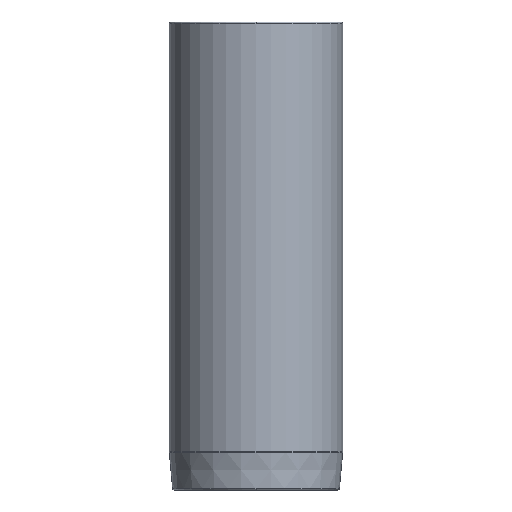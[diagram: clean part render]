
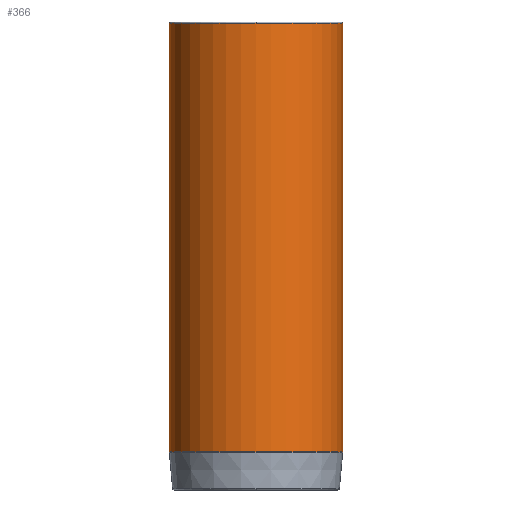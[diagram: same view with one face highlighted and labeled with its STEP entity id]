
A CAD part, front view. The second image highlights one B-rep face of the part: STEP entity #366.
In plain terms, the highlighted cylindrical face has radius 29.625 mm (diameter 59.25 mm), a partial arc.
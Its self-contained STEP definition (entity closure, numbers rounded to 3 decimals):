
#271=CARTESIAN_POINT('',(0.0,-29.625,68.5));
#272=VERTEX_POINT('',#271);
#298=CARTESIAN_POINT('',(-29.625,0.,68.5));
#299=VERTEX_POINT('',#298);
#307=CARTESIAN_POINT('',(0.0,0.,68.5));
#308=DIRECTION('',(0.0,0.0,1.0));
#309=DIRECTION('',(1.0,0.0,0.0));
#310=AXIS2_PLACEMENT_3D('',#307,#308,#309);
#311=CIRCLE('',#310,29.625);
#312=EDGE_CURVE('',#299,#272,#311,.T.);
#317=CARTESIAN_POINT('',(0.0,0.,-4.728));
#318=DIRECTION('',(0.0,0.,1.0));
#319=DIRECTION('',(1.0,0.0,0.0));
#320=AXIS2_PLACEMENT_3D('',#317,#318,#319);
#321=CYLINDRICAL_SURFACE('',#320,29.625);
#322=CARTESIAN_POINT('',(29.625,0.,68.5));
#323=VERTEX_POINT('',#322);
#324=CARTESIAN_POINT('',(29.625,0.,-77.956));
#325=VERTEX_POINT('',#324);
#326=CARTESIAN_POINT('',(29.625,0.,68.5));
#327=DIRECTION('',(0.0,0.0,-1.0));
#328=VECTOR('',#327,146.456);
#329=LINE('',#326,#328);
#330=EDGE_CURVE('',#323,#325,#329,.T.);
#331=ORIENTED_EDGE('',*,*,#330,.F.);
#332=CARTESIAN_POINT('',(0.0,0.,68.5));
#333=DIRECTION('',(0.0,0.0,1.0));
#334=DIRECTION('',(1.0,0.0,0.0));
#335=AXIS2_PLACEMENT_3D('',#332,#333,#334);
#336=CIRCLE('',#335,29.625);
#337=EDGE_CURVE('',#272,#323,#336,.T.);
#338=ORIENTED_EDGE('',*,*,#337,.F.);
#339=ORIENTED_EDGE('',*,*,#312,.F.);
#340=CARTESIAN_POINT('',(-29.625,0.,-77.956));
#341=VERTEX_POINT('',#340);
#342=CARTESIAN_POINT('',(-29.625,0.,68.5));
#343=DIRECTION('',(0.0,0.0,-1.0));
#344=VECTOR('',#343,146.456);
#345=LINE('',#342,#344);
#346=EDGE_CURVE('',#299,#341,#345,.T.);
#347=ORIENTED_EDGE('',*,*,#346,.T.);
#348=CARTESIAN_POINT('',(0.0,-29.625,-77.956));
#349=VERTEX_POINT('',#348);
#350=CARTESIAN_POINT('',(0.0,0.,-77.956));
#351=DIRECTION('',(0.0,0.0,1.0));
#352=DIRECTION('',(1.0,0.0,0.0));
#353=AXIS2_PLACEMENT_3D('',#350,#351,#352);
#354=CIRCLE('',#353,29.625);
#355=EDGE_CURVE('',#341,#349,#354,.T.);
#356=ORIENTED_EDGE('',*,*,#355,.T.);
#357=CARTESIAN_POINT('',(0.0,0.,-77.956));
#358=DIRECTION('',(0.0,0.0,1.0));
#359=DIRECTION('',(1.0,0.0,0.0));
#360=AXIS2_PLACEMENT_3D('',#357,#358,#359);
#361=CIRCLE('',#360,29.625);
#362=EDGE_CURVE('',#349,#325,#361,.T.);
#363=ORIENTED_EDGE('',*,*,#362,.T.);
#364=EDGE_LOOP('',(#331,#338,#339,#347,#356,#363));
#365=FACE_OUTER_BOUND('',#364,.T.);
#366=ADVANCED_FACE('',(#365),#321,.T.);
